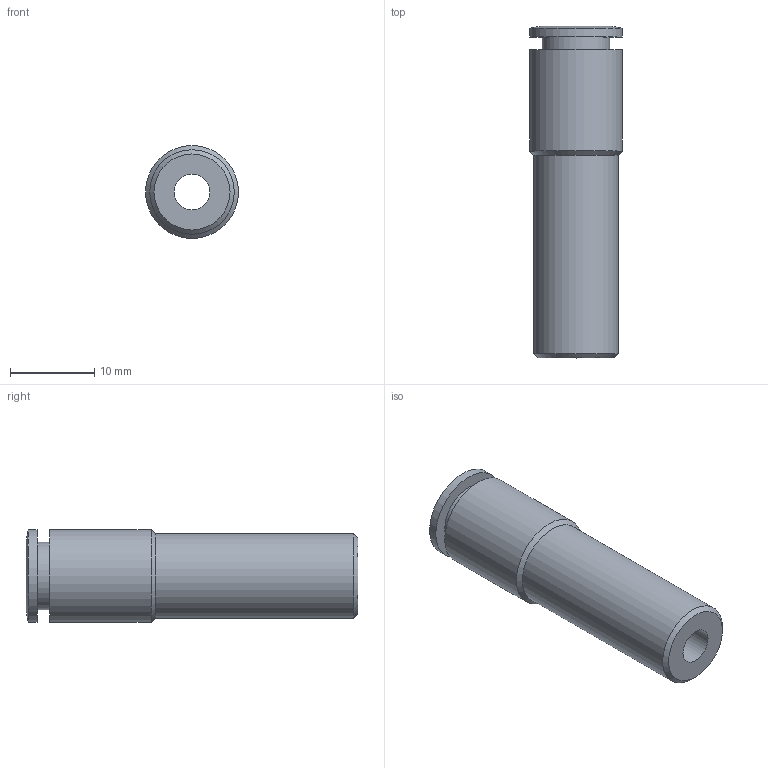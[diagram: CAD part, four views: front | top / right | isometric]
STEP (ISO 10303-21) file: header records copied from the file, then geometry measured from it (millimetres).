
FILE_DESCRIPTION((''),'2;1');
FILE_NAME('C:\Documents and Settings\rivolro1\Documenti\copia di Raccordi\PLASTICA\T08XXXX\T081006.stp','2007-10-30T17:05:06',('Rivolro1'),(''),'Autodesk Inventor 2008','Autodesk Inventor 2008','');
FILE_SCHEMA(('AUTOMOTIVE_DESIGN { 1 0 10303 214 1 1 1 1 }'));
Length unit declared in the file: millimetre
Products named in the file (1): T081006
Bounding box: 11 x 39.3 x 11 mm (x, y, z)
Volume: 2430.5 mm3; surface area: 2119.2 mm2
Topology: 1 solids, 1 shells, 14 faces, 23 edges, 14 vertices
Faces by surface type: cylinder 5, plane 4, cone 3, bspline 2
Full cylindrical faces by diameter (mm): 4.2 x1, 8 x1, 10 x1, 11 x2
Entity records: 343 total; most frequent: CARTESIAN_POINT 63, DIRECTION 54, ORIENTED_EDGE 28, EDGE_LOOP 28, AXIS2_PLACEMENT_3D 27, VERTEX_POINT 14, CIRCLE 14, EDGE_CURVE 14
